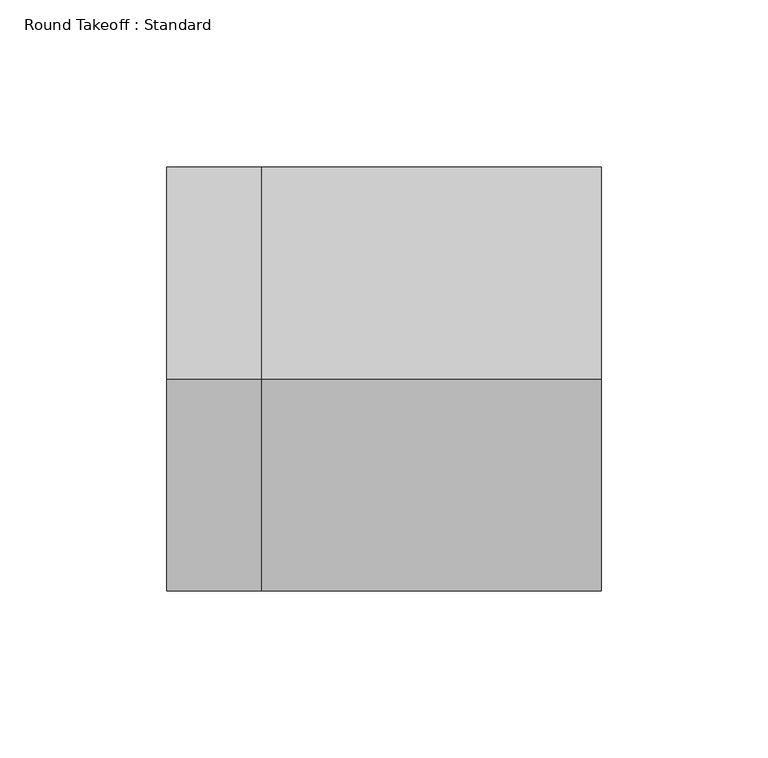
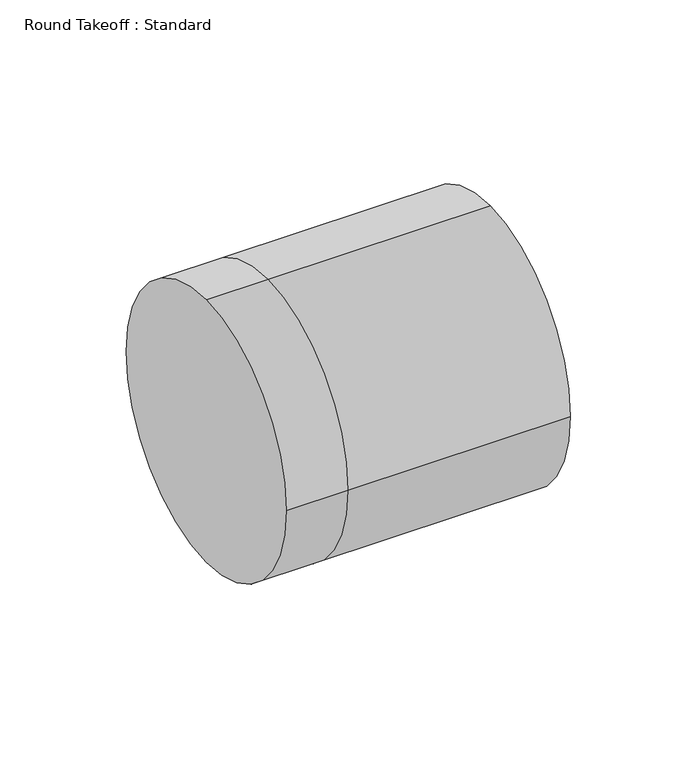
"""IFC4 building model written with IfcOpenShell, lengths in millimetres: duct fitting geometry, Round Takeoff : Standard."""

from ifc_helpers import new_model, si_unit, frame, origin, place, context, project, spatial, circle_curve, source, transform, mapped, element, save
from ifc_brep_helpers import plane_surface, cylinder_surface, advanced_brep


def round_takeoff_standard_86d024ab(model_context):
    return source(origin(), model_context, "Body", "AdvancedBrep", [
        advanced_brep(
        [(101.6, 0.0, 63.5), (101.6, -63.5, 0.0), (101.6, 0.0, -63.5), (101.6, 63.5, 0.0), (0.0, 63.5, 0.0), (0.0, 0.0, 63.5), (0.0, 0.0, -63.5), (0.0, -63.5, 0.0), (-28.3845254, 0.0, 63.5), (-28.3845254, 63.5, 0.0), (-28.3845254, 0.0, -63.5), (-28.3845254, -63.5, 0.0)],
        [
            (0, 1, circle_curve(frame((101.6, 0.0, 0.0), z_axis=(1.0, 0.0, 0.0), x_axis=(0.0, 1.0, 0.0)), 63.5)),
            (1, 2, circle_curve(frame((101.6, 0.0, 0.0), z_axis=(1.0, 0.0, 0.0), x_axis=(0.0, 1.0, 0.0)), 63.5)),
            (2, 3, circle_curve(frame((101.6, 0.0, 0.0), z_axis=(1.0, 0.0, 0.0), x_axis=(0.0, 1.0, 0.0)), 63.5)),
            (3, 0, circle_curve(frame((101.6, 0.0, 0.0), z_axis=(1.0, 0.0, 0.0), x_axis=(0.0, 1.0, 0.0)), 63.5)),
            (3, 4),
            (4, 5, circle_curve(frame((0.0, 0.0, 0.0), z_axis=(1.0, 0.0, 0.0), x_axis=(0.0, 1.0, 0.0)), 63.5)),
            (5, 0),
            (2, 6),
            (6, 4, circle_curve(frame((0.0, 0.0, 0.0), z_axis=(1.0, 0.0, 0.0), x_axis=(0.0, 1.0, 0.0)), 63.5)),
            (1, 7),
            (7, 6, circle_curve(frame((0.0, 0.0, 0.0), z_axis=(1.0, 0.0, 0.0), x_axis=(0.0, 1.0, 0.0)), 63.5)),
            (5, 7, circle_curve(frame((0.0, 0.0, 0.0), z_axis=(1.0, 0.0, 0.0), x_axis=(0.0, 1.0, 0.0)), 63.5)),
            (8, 9, circle_curve(frame((-28.3845254, 0.0, 0.0), z_axis=(-1.0, 0.0, 0.0), x_axis=(0.0, 1.0, 0.0)), 63.5)),
            (9, 10, circle_curve(frame((-28.3845254, 0.0, 0.0), z_axis=(-1.0, 0.0, 0.0), x_axis=(0.0, 1.0, 0.0)), 63.5)),
            (10, 11, circle_curve(frame((-28.3845254, 0.0, 0.0), z_axis=(-1.0, 0.0, 0.0), x_axis=(0.0, 1.0, 0.0)), 63.5)),
            (11, 8, circle_curve(frame((-28.3845254, 0.0, 0.0), z_axis=(-1.0, 0.0, 0.0), x_axis=(0.0, 1.0, 0.0)), 63.5)),
            (8, 5),
            (4, 9),
            (6, 10),
            (7, 11),
        ],
        [
            plane_surface(frame((101.6, 0.0, 0.0), z_axis=(1.0, 0.0, 0.0), x_axis=(0.0, 0.0, 1.0))),
            cylinder_surface(frame((0.0, 0.0, 0.0), z_axis=(-1.0, 0.0, 0.0), x_axis=(0.0, 1.0, 0.0)), 63.5),
            plane_surface(frame((-28.3845254, 0.0, 0.0), z_axis=(-1.0, 0.0, 0.0), x_axis=(0.0, 0.0, 1.0))),
            cylinder_surface(frame((-28.3845254, 0.0, 0.0), z_axis=(-1.0, 0.0, 0.0), x_axis=(0.0, 1.0, 0.0)), 63.5),
        ],
        [
            (0, [[1, 2, 3, 4]]),
            (1, [[-4, 5, 6, 7]]),
            (1, [[-3, 8, 9, -5]]),
            (1, [[-2, 10, 11, -8]]),
            (1, [[-1, -7, 12, -10]]),
            (2, [[13, 14, 15, 16]]),
            (3, [[-13, 17, -6, 18]]),
            (3, [[-14, -18, -9, 19]]),
            (3, [[-15, -19, -11, 20]]),
            (3, [[-16, -20, -12, -17]]),
        ],
    ),
    ])


if __name__ == "__main__":
    model = new_model("IFC4")
    model_context = context("Model", 3, world=origin())
    ifc_project = project(units=[si_unit("LENGTHUNIT", "METRE", prefix="MILLI")], contexts=[model_context])
    site = spatial("IfcSite", under=ifc_project)
    building = spatial("IfcBuilding", under=site)
    placement = place(None, origin())
    round_takeoff_standard_shape = round_takeoff_standard_86d024ab(model_context)
    element("IfcDuctFitting", 1, ObjectType="Round Takeoff : Standard", at=placement, inside=building, context=model_context, shape_type="MappedRepresentation", body=[
        mapped(round_takeoff_standard_shape, transform((0.0, 0.0, 0.0), x_axis=(1.0, 0.0, 0.0), y_axis=(0.0, 1.0, 0.0), z_axis=(0.0, 0.0, 1.0))),
    ])
    save(model, "model.ifc")
